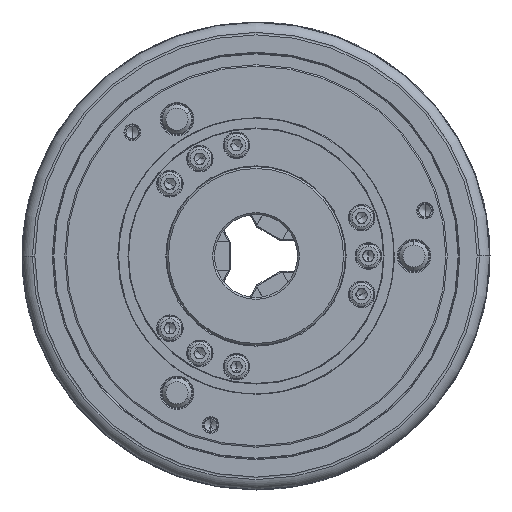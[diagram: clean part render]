
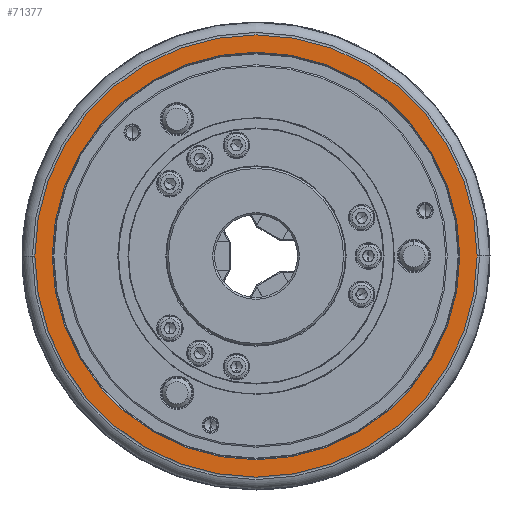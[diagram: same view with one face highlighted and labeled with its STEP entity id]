
A CAD part, left-side view. The second image highlights one B-rep face of the part: STEP entity #71377.
In plain terms, the highlighted planar face has unit normal (-1, 0, 0).
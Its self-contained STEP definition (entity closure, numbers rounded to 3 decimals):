
#367 = DIRECTION ( 'NONE',  ( 0., 0., 1. ) ) ;
#987 = AXIS2_PLACEMENT_3D ( 'NONE', #26419, #79401, #34045 ) ;
#4787 = VERTEX_POINT ( 'NONE', #95801 ) ;
#8079 = DIRECTION ( 'NONE',  ( 1., 0., 0. ) ) ;
#10378 = CARTESIAN_POINT ( 'NONE',  ( -100., 0., 110.6 ) ) ;
#10690 = CARTESIAN_POINT ( 'NONE',  ( -100., 0., 0. ) ) ;
#11193 = EDGE_CURVE ( 'NONE', #79899, #85470, #90149, .T. ) ;
#12598 = CARTESIAN_POINT ( 'NONE',  ( -100., 0., 0. ) ) ;
#14307 = AXIS2_PLACEMENT_3D ( 'NONE', #10690, #63779, #18342 ) ;
#16431 = AXIS2_PLACEMENT_3D ( 'NONE', #60822, #45937, #367 ) ;
#18342 = DIRECTION ( 'NONE',  ( 0., 1., 0. ) ) ;
#18528 = ORIENTED_EDGE ( 'NONE', *, *, #49309, .F. ) ;
#19997 = CIRCLE ( 'NONE', #32756, 110.6 ) ;
#20235 = DIRECTION ( 'NONE',  ( 0., 0., -1. ) ) ;
#26419 = CARTESIAN_POINT ( 'NONE',  ( -100., 0., 0. ) ) ;
#32756 = AXIS2_PLACEMENT_3D ( 'NONE', #53537, #8079, #61139 ) ;
#34045 = DIRECTION ( 'NONE',  ( 0., 1., 0. ) ) ;
#36293 = CIRCLE ( 'NONE', #67012, 110.6 ) ;
#38324 = PLANE ( 'NONE',  #16431 ) ;
#45937 = DIRECTION ( 'NONE',  ( -1., 0., 0. ) ) ;
#49309 = EDGE_CURVE ( 'NONE', #85470, #79899, #97529, .T. ) ;
#50011 = EDGE_LOOP ( 'NONE', ( #18528, #96070 ) ) ;
#50145 = FACE_OUTER_BOUND ( 'NONE', #50011, .T. ) ;
#53537 = CARTESIAN_POINT ( 'NONE',  ( -100., 0., 0. ) ) ;
#53684 = EDGE_LOOP ( 'NONE', ( #58638, #87911 ) ) ;
#58638 = ORIENTED_EDGE ( 'NONE', *, *, #87954, .T. ) ;
#60822 = CARTESIAN_POINT ( 'NONE',  ( -100., 55.3, -95.782 ) ) ;
#61139 = DIRECTION ( 'NONE',  ( 0., 0., -1. ) ) ;
#63779 = DIRECTION ( 'NONE',  ( 1., 0., 0. ) ) ;
#65637 = DIRECTION ( 'NONE',  ( 1., 0., 0. ) ) ;
#67012 = AXIS2_PLACEMENT_3D ( 'NONE', #12598, #65637, #20235 ) ;
#71377 = ADVANCED_FACE ( 'NONE', ( #50145, #88037 ), #38324, .T. ) ;
#75993 = VERTEX_POINT ( 'NONE', #10378 ) ;
#77435 = EDGE_CURVE ( 'NONE', #4787, #75993, #19997, .T. ) ;
#79401 = DIRECTION ( 'NONE',  ( 1., 0., 0. ) ) ;
#79899 = VERTEX_POINT ( 'NONE', #95953 ) ;
#85470 = VERTEX_POINT ( 'NONE', #87829 ) ;
#87829 = CARTESIAN_POINT ( 'NONE',  ( -100., 120., 0. ) ) ;
#87911 = ORIENTED_EDGE ( 'NONE', *, *, #77435, .T. ) ;
#87954 = EDGE_CURVE ( 'NONE', #75993, #4787, #36293, .T. ) ;
#88037 = FACE_BOUND ( 'NONE', #53684, .T. ) ;
#90149 = CIRCLE ( 'NONE', #14307, 120. ) ;
#95801 = CARTESIAN_POINT ( 'NONE',  ( -100., 0., -110.6 ) ) ;
#95953 = CARTESIAN_POINT ( 'NONE',  ( -100., -120., 0. ) ) ;
#96070 = ORIENTED_EDGE ( 'NONE', *, *, #11193, .F. ) ;
#97529 = CIRCLE ( 'NONE', #987, 120. ) ;
